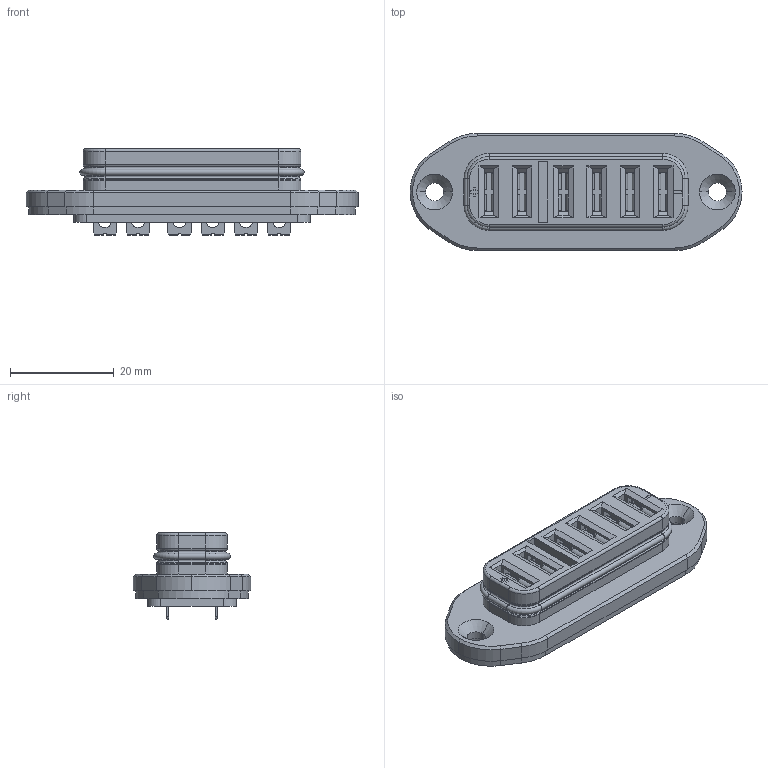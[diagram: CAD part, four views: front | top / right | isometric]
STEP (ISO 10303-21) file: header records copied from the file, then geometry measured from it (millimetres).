
FILE_DESCRIPTION((''),'2;1');
FILE_NAME('6P-FEMELE-WYW_ASM','2024-11-20T',('c3952'),(''),'CREO PARAMETRIC BY PTC INC, 2014500','CREO PARAMETRIC BY PTC INC, 2014500','');
FILE_SCHEMA(('AUTOMOTIVE_DESIGN { 1 0 10303 214 1 1 1 1 }'));
Length unit declared in the file: millimetre
Products named in the file (6): T1-6P-FEMALE_WTW; T5-SN0017-2000X; T2-4P9S-6P; 0-RING; FEMALE_RUBBER; 6P-FEMELE-WYW_ASM
Assembly tree (10 placements, depth 2):
  6P-FEMELE-WYW_ASM
    T1-6P-FEMALE_WTW
    T5-SN0017-2000X  x6
    T2-4P9S-6P
    0-RING
    FEMALE_RUBBER
Bounding box: 64 x 22.6 x 16.7 mm (x, y, z)
Volume: 7051 mm3; surface area: 12468.8 mm2
Topology: 10 solids, 12 shells, 1338 faces, 3686 edges, 2384 vertices
Faces by surface type: plane 882, cylinder 405, torus 32, cone 19
Entity records: 29627 total; most frequent: CARTESIAN_POINT 4266, ORIENTED_EDGE 4142, DIRECTION 4015, EDGE_CURVE 2071, VECTOR 1685, LINE 1685, VERTEX_POINT 1324, PRESENTATION_STYLE_ASSIGNMENT 1224
